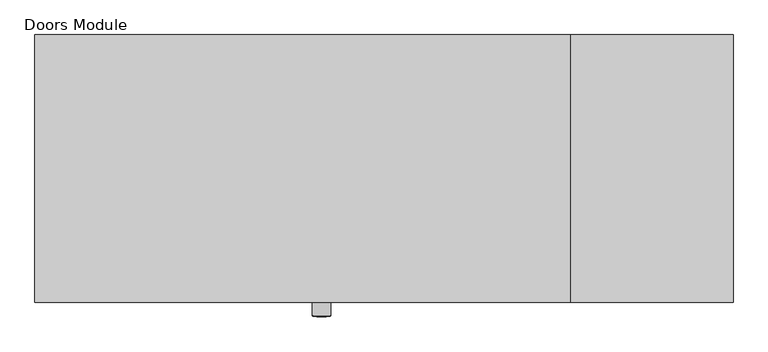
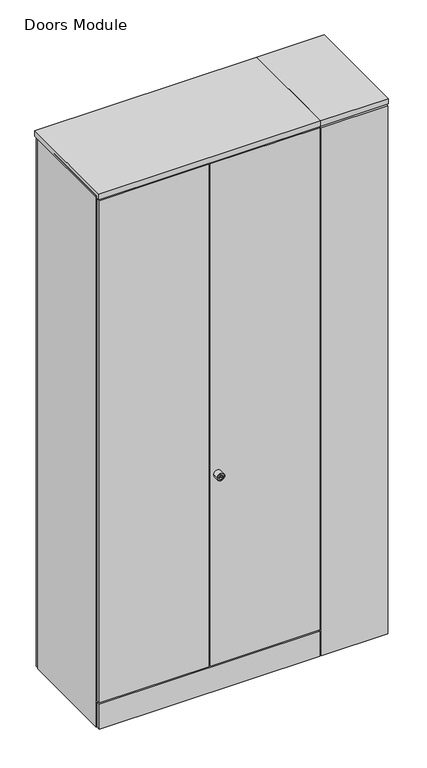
"""IFC4 building model written with IfcOpenShell, lengths in millimetres: furniture geometry, Furniture_Storage_Spacestor_SignatureStoragewall : Doors Module."""

from ifc_helpers import new_model, si_unit, point, frame, origin, origin_with_axes, place, context, project, spatial, polyline, circle_curve, ellipse_curve, trimmed, outline, extrude, source, transform, mapped, element, save
from ifc_brep_helpers import plane_surface, cylinder_surface, revolved_surface, advanced_brep


def doors_module_3dcb20ef(model_context):
    return source(origin(), model_context, "Body", "SolidModel", [
        extrude(outline(polyline([(1303.5, -20.5), (1000.0, -20.5), (1000.0, 479.5), (1303.5, 479.5), (1303.5, -20.5)])), frame((0.0, 0.0, 2525.0), z_axis=(0.0, 0.0, 1.0), x_axis=(1.0, 0.0, 0.0)), (0.0, 0.0, 1.0), 25.5),
        extrude(outline(polyline([(996.5, 459.0), (3.5, 459.0), (3.5, 477.0), (996.5, 477.0), (996.5, 459.0)])), origin_with_axes(), (0.0, 0.0, 1.0), 2518.0),
        extrude(outline(polyline([(996.5, -18.0), (3.5, -18.0), (3.5, 0.0), (996.5, 0.0), (996.5, -18.0)])), origin_with_axes(), (0.0, 0.0, 1.0), 118.0),
        extrude(outline(polyline([(1000.0, -20.5), (0.0, -20.5), (0.0, 479.5), (1000.0, 479.5), (1000.0, -20.5)])), frame((0.0, 0.0, 2525.0), z_axis=(0.0, 0.0, 1.0), x_axis=(1.0, 0.0, 0.0)), (0.0, 0.0, 1.0), 25.5),
        extrude(outline(polyline([(1303.5, 459.0), (1003.5, 459.0), (1003.5, 477.0), (1303.5, 477.0), (1303.5, 459.0)])), origin_with_axes(), (0.0, 0.0, 1.0), 2515.5),
        extrude(outline(polyline([(1303.5, -18.0), (1003.5, -18.0), (1003.5, 0.0), (1303.5, 0.0), (1303.5, -18.0)])), origin_with_axes(), (0.0, 0.0, 1.0), 2515.5),
        extrude(outline(polyline([(1011.0, 0.0), (1000.0, 0.0), (1000.0, 459.0), (1011.0, 459.0), (1011.0, 0.0)])), origin_with_axes(), (0.0, 0.0, 1.0), 2532.5),
        extrude(outline(polyline([(1000.0, 0.0), (989.0, 0.0), (989.0, 459.0), (1000.0, 459.0), (1000.0, 0.0)])), origin_with_axes(), (0.0, 0.0, 1.0), 2532.5),
        extrude(outline(polyline([(11.0, 0.0), (0.0, 0.0), (0.0, 459.0), (11.0, 459.0), (11.0, 0.0)])), origin_with_axes(), (0.0, 0.0, 1.0), 2532.5),
        extrude(outline(polyline([(989.0, 0.0), (11.0, 0.0), (11.0, 459.0), (989.0, 459.0), (989.0, 0.0)])), frame((0.0, 0.0, 2023.0), z_axis=(0.0, 0.0, 1.0), x_axis=(1.0, 0.0, 0.0)), (0.0, 0.0, 1.0), 22.0),
        extrude(outline(polyline([(989.0, 0.0), (11.0, 0.0), (11.0, 459.0), (989.0, 459.0), (989.0, 0.0)])), frame((0.0, 0.0, 1639.0), z_axis=(0.0, 0.0, 1.0), x_axis=(1.0, 0.0, 0.0)), (0.0, 0.0, 1.0), 22.0),
        extrude(outline(polyline([(989.0, 0.0), (11.0, 0.0), (11.0, 459.0), (989.0, 459.0), (989.0, 0.0)])), frame((0.0, 0.0, 1255.0), z_axis=(0.0, 0.0, 1.0), x_axis=(1.0, 0.0, 0.0)), (0.0, 0.0, 1.0), 22.0),
        extrude(outline(polyline([(989.0, 0.0), (11.0, 0.0), (11.0, 459.0), (989.0, 459.0), (989.0, 0.0)])), frame((0.0, 0.0, 871.0), z_axis=(0.0, 0.0, 1.0), x_axis=(1.0, 0.0, 0.0)), (0.0, 0.0, 1.0), 22.0),
        extrude(outline(polyline([(989.0, 0.0), (11.0, 0.0), (11.0, 459.0), (989.0, 459.0), (989.0, 0.0)])), frame((0.0, 0.0, 487.0), z_axis=(0.0, 0.0, 1.0), x_axis=(1.0, 0.0, 0.0)), (0.0, 0.0, 1.0), 22.0),
        advanced_brep(
        [(552.0, -45.3116344, 1032.0), (518.0, -45.3116344, 1032.0), (518.0, -18.0, 1032.0), (552.0, -18.0, 1032.0), (535.0, -18.0, 1032.0), (543.9747319, -46.3150077, 1032.0), (526.0252681, -46.3150077, 1032.0), (519.0033734, -46.3150077, 1032.0), (550.9966266, -46.3150077, 1032.0), (543.9747319, -47.4703043, 1032.0), (526.0252681, -47.4703043, 1032.0), (539.8245152, -47.4703043, 1032.0), (539.8245152, -47.4703043, 1030.6366562), (530.1754848, -47.4703043, 1030.6366562), (530.1754848, -47.4703043, 1032.0), (530.1754848, -47.4703043, 1033.3633438), (539.8245152, -47.4703043, 1033.3633438), (530.1754848, -27.8604291, 1030.6366562), (539.8245152, -27.8604291, 1030.6366562), (539.8245152, -27.8604291, 1033.3633438), (530.1754848, -27.8604291, 1033.3633438)],
        [
            (0, 1, circle_curve(frame((535.0, -45.3116344, 1032.0), z_axis=(0.0, 1.0, 0.0), x_axis=(-1.0, 0.0, 0.0)), 17.0)),
            (1, 2),
            (2, 3, circle_curve(frame((535.0, -18.0, 1032.0), z_axis=(0.0, -1.0, 0.0), x_axis=(-1.0, 0.0, 0.0)), 17.0)),
            (3, 0),
            (1, 0, circle_curve(frame((535.0, -45.3116344, 1032.0), z_axis=(0.0, 1.0, 0.0), x_axis=(-1.0, 0.0, 0.0)), 17.0)),
            (3, 2, circle_curve(frame((535.0, -18.0, 1032.0), z_axis=(0.0, -1.0, 0.0), x_axis=(-1.0, 0.0, 0.0)), 17.0)),
            (2, 4),
            (4, 3),
            (5, 6, circle_curve(frame((535.0, -46.3150077, 1032.0), z_axis=(0.0, 1.0, 0.0), x_axis=(-1.0, 0.0, 0.0)), 8.9747319)),
            (6, 7),
            (7, 8, circle_curve(frame((535.0, -46.3150077, 1032.0), z_axis=(0.0, -1.0, 0.0), x_axis=(-1.0, 0.0, 0.0)), 15.9966266)),
            (8, 5),
            (6, 5, circle_curve(frame((535.0, -46.3150077, 1032.0), z_axis=(0.0, 1.0, 0.0), x_axis=(-1.0, 0.0, 0.0)), 8.9747319)),
            (8, 7, circle_curve(frame((535.0, -46.3150077, 1032.0), z_axis=(0.0, -1.0, 0.0), x_axis=(-1.0, 0.0, 0.0)), 15.9966266)),
            (0, 8, circle_curve(frame((550.9966266, -45.3116344, 1032.0), z_axis=(0.0, 0.0, -1.0), x_axis=(1.0, 0.0, 0.0)), 1.0033734)),
            (7, 1, circle_curve(frame((519.0033734, -45.3116344, 1032.0), z_axis=(0.0, 0.0, -1.0), x_axis=(-1.0, 0.0, 0.0)), 1.0033734)),
            (5, 9),
            (9, 10, circle_curve(frame((535.0, -47.4703043, 1032.0), z_axis=(0.0, 1.0, 0.0), x_axis=(-1.0, 0.0, 0.0)), 8.9747319)),
            (10, 6),
            (10, 9, circle_curve(frame((535.0, -47.4703043, 1032.0), z_axis=(0.0, 1.0, 0.0), x_axis=(-1.0, 0.0, 0.0)), 8.9747319)),
            (9, 11),
            (11, 12),
            (12, 13),
            (13, 14),
            (14, 10),
            (14, 15),
            (15, 16),
            (16, 11),
            (17, 18),
            (18, 19),
            (19, 20),
            (20, 17),
            (17, 13),
            (12, 18),
            (16, 19),
            (15, 20),
        ],
        [
            cylinder_surface(frame((535.0, -2627.0581012, 1032.0), z_axis=(0.0, -1.0, 0.0), x_axis=(-1.0, 0.0, 0.0)), 17.0),
            plane_surface(frame((535.0, -18.0, 1032.0), z_axis=(0.0, 1.0, 0.0), x_axis=(-1.0, 0.0, 0.0))),
            plane_surface(frame((535.0, -46.3150077, 1032.0), z_axis=(0.0, -1.0, 0.0), x_axis=(-1.0, 0.0, 0.0))),
            revolved_surface(trimmed(ellipse_curve(frame((519.0033734, -45.3116344, 1032.0), z_axis=(0.0, 0.0, 1.0), x_axis=(-1.0, 0.0, 0.0)), 1.0033734, 1.0033734), [point((518.0, -45.3116344, 1032.0))], [point((519.0033734, -46.3150077, 1032.0))], True, "CARTESIAN"), (535.0, -2627.0581012, 1032.0), (0.0, -1.0, 0.0)),
            cylinder_surface(frame((535.0, -2627.0581012, 1032.0), z_axis=(0.0, -1.0, 0.0), x_axis=(-1.0, 0.0, 0.0)), 8.9747319),
            plane_surface(frame((535.0, -47.4703043, 1032.0), z_axis=(0.0, -1.0, 0.0), x_axis=(-1.0, 0.0, 0.0))),
            plane_surface(frame((539.4565249, -27.8604291, 1030.6366562), z_axis=(0.0, -1.0, 0.0), x_axis=(-1.0, 0.0, 0.0))),
            plane_surface(frame((530.1754848, -49.2046383, 1030.6366562), z_axis=(0.0, 0.0, 1.0), x_axis=(0.0, 1.0, 0.0))),
            plane_surface(frame((539.8245152, -49.2046383, 1030.6366562), z_axis=(-1.0, 0.0, 0.0), x_axis=(0.0, 1.0, 0.0))),
            plane_surface(frame((539.8245152, -49.2046383, 1033.3633438), z_axis=(0.0, 0.0, -1.0), x_axis=(0.0, 1.0, 0.0))),
            plane_surface(frame((530.1754848, -49.2046383, 1033.3633438), z_axis=(1.0, 0.0, 0.0), x_axis=(0.0, 1.0, 0.0))),
        ],
        [
            (0, [[1, 2, 3, 4]]),
            (0, [[-2, 5, -4, 6]]),
            (1, [[-3, 7, 8]]),
            (1, [[-6, -8, -7]]),
            (2, [[9, 10, 11, 12]]),
            (2, [[-10, 13, -12, 14]]),
            (3, [[-1, 15, -11, 16]]),
            (3, [[-5, -16, -14, -15]]),
            (4, [[-9, 17, 18, 19]]),
            (4, [[-13, -19, 20, -17]]),
            (5, [[-18, 21, 22, 23, 24, 25]]),
            (5, [[-20, -25, 26, 27, 28, -21]]),
            (6, [[29, 30, 31, 32]]),
            (7, [[-29, 33, -23, 34]]),
            (8, [[-30, -34, -22, -28, 35]]),
            (9, [[-31, -35, -27, 36]]),
            (10, [[-32, -36, -26, -24, -33]]),
        ],
    ),
        extrude(outline(polyline([(3.5, -18.0), (3.5, 0.0), (496.5, 0.0), (496.5, -18.0), (3.5, -18.0)])), frame((0.0, 0.0, 125.0), z_axis=(0.0, 0.0, 1.0), x_axis=(1.0, 0.0, 0.0)), (0.0, 0.0, 1.0), 2393.0),
        extrude(outline(polyline([(996.5, -18.0), (503.5, -18.0), (503.5, 0.0), (996.5, 0.0), (996.5, -18.0)])), frame((0.0, 0.0, 125.0), z_axis=(0.0, 0.0, 1.0), x_axis=(1.0, 0.0, 0.0)), (0.0, 0.0, 1.0), 2393.0),
        extrude(outline(polyline([(989.0, 0.0), (11.0, 0.0), (11.0, 459.0), (989.0, 459.0), (989.0, 0.0)])), frame((0.0, 0.0, 110.5), z_axis=(0.0, 0.0, 1.0), x_axis=(1.0, 0.0, 0.0)), (0.0, 0.0, 1.0), 22.0),
        extrude(outline(polyline([(989.0, 0.0), (11.0, 0.0), (11.0, 459.0), (989.0, 459.0), (989.0, 0.0)])), frame((0.0, 0.0, 2510.0), z_axis=(0.0, 0.0, 1.0), x_axis=(1.0, 0.0, 0.0)), (0.0, 0.0, 1.0), 22.0),
    ])


if __name__ == "__main__":
    model = new_model("IFC4")
    model_context = context("Model", 3, world=origin())
    ifc_project = project(units=[si_unit("LENGTHUNIT", "METRE", prefix="MILLI")], contexts=[model_context])
    site = spatial("IfcSite", under=ifc_project)
    building = spatial("IfcBuilding", under=site)
    placement = place(None, origin())
    doors_module_shape = doors_module_3dcb20ef(model_context)
    element("IfcFurniture", 1, ObjectType="Furniture_Storage_Spacestor_SignatureStoragewall : Doors Module", at=placement, inside=building, context=model_context, shape_type="MappedRepresentation", body=[
        mapped(doors_module_shape, transform((0.0, 0.0, 0.0), x_axis=(1.0, 0.0, 0.0), y_axis=(0.0, 1.0, 0.0), z_axis=(0.0, 0.0, 1.0))),
    ])
    save(model, "model.ifc")
